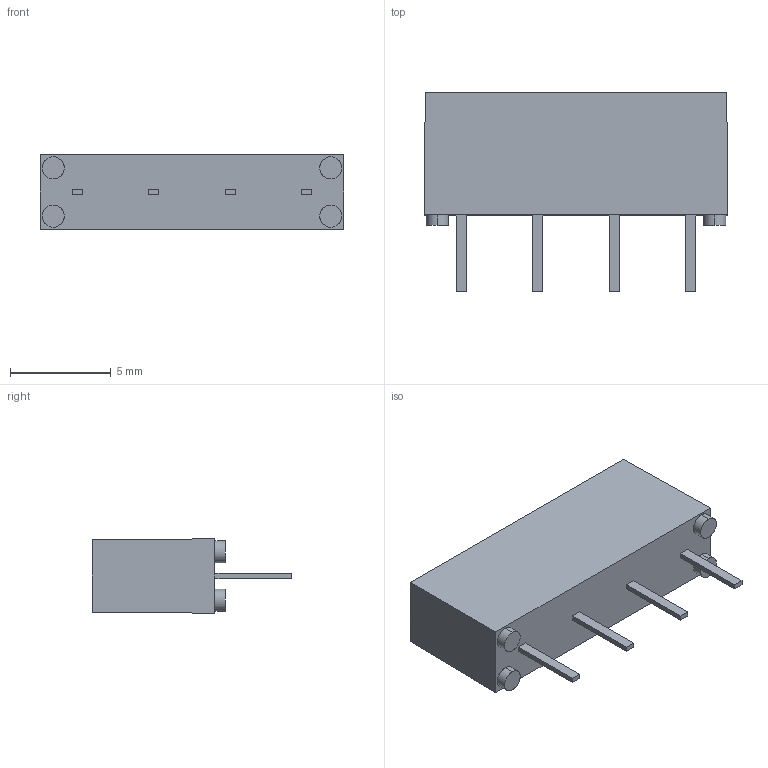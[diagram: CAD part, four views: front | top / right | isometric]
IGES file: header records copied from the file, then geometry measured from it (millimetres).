
Start section: SolidWorks IGES file using analytic representation for surfaces
Global section: file name: T:\Relays in Solidworks\Batch 1\109P-1-A-x-xx.IGS; native system: SolidWorks 2009; preprocessor: SolidWorks 2009; author: alex.leming; date: 100629.115503; units: millimetre
Bounding box: 15.1 x 9.9 x 3.7 mm (x, y, z)
Surface area: 367.9 mm2 (no closed solid volume)
Topology: 0 solids, 0 shells, 274 faces, 2315 edges, 2315 vertices
Faces by surface type: bspline 264, revolution 10
